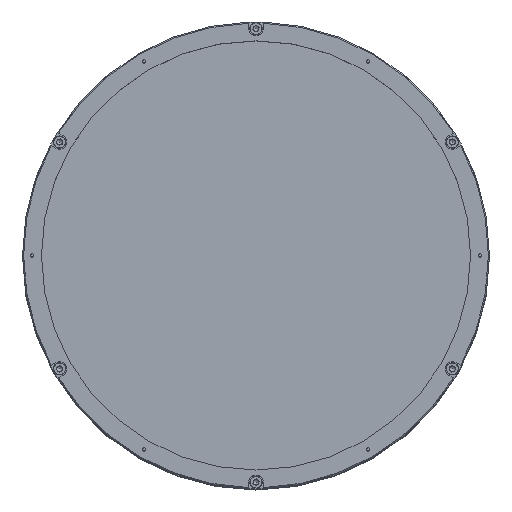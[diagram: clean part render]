
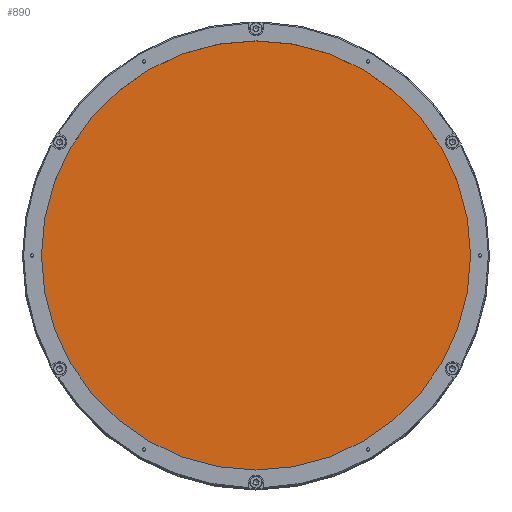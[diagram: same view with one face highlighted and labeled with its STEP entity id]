
A CAD part, top view. The second image highlights one B-rep face of the part: STEP entity #890.
In plain terms, the highlighted planar face has unit normal (0, 0, 1).
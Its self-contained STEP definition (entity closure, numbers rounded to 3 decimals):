
#890 = ADVANCED_FACE ( 'NONE', ( #18006 ), #6305, .F. ) ;
#2470 = CARTESIAN_POINT ( 'NONE',  ( 0., 0., 400.916 ) ) ;
#4172 = DIRECTION ( 'NONE',  ( 0.5, -0.866, 0. ) ) ;
#5209 = AXIS2_PLACEMENT_3D ( 'NONE', #9691, #14741, #9484 ) ;
#6305 = PLANE ( 'NONE',  #5209 ) ;
#6749 = VERTEX_POINT ( 'NONE', #16190 ) ;
#9484 = DIRECTION ( 'NONE',  ( -1., 0., 0. ) ) ;
#9691 = CARTESIAN_POINT ( 'NONE',  ( 0., 0., 400.916 ) ) ;
#14322 = DIRECTION ( 'NONE',  ( 0., 0., -1. ) ) ;
#14741 = DIRECTION ( 'NONE',  ( 0., 0., -1. ) ) ;
#16116 = EDGE_LOOP ( 'NONE', ( #21771 ) ) ;
#16190 = CARTESIAN_POINT ( 'NONE',  ( 48.25, -83.571, 400.916 ) ) ;
#17582 = CIRCLE ( 'NONE', #21861, 96.5 ) ;
#18006 = FACE_OUTER_BOUND ( 'NONE', #16116, .T. ) ;
#19232 = EDGE_CURVE ( 'NONE', #6749, #6749, #17582, .T. ) ;
#21771 = ORIENTED_EDGE ( 'NONE', *, *, #19232, .F. ) ;
#21861 = AXIS2_PLACEMENT_3D ( 'NONE', #2470, #14322, #4172 ) ;
